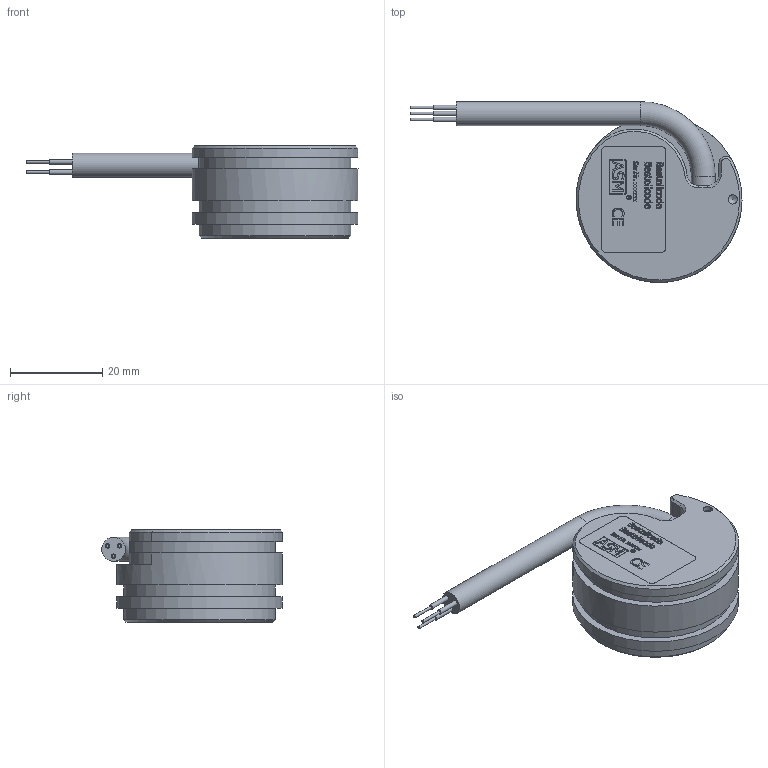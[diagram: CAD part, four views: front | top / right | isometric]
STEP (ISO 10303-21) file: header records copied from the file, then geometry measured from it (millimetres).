
FILE_DESCRIPTION((''),'2;1');
FILE_NAME('K:\Daten\Ptam2-Kab.stp','2013-07-04T12:05:55',('kamp'),(''),'Autodesk Inventor 2008','Autodesk Inventor 2008','');
FILE_SCHEMA(('AUTOMOTIVE_DESIGN { 1 0 10303 214 1 1 1 1 }'));
Length unit declared in the file: millimetre
Products named in the file (1): Bauteil14
Bounding box: 72.03 x 39.22 x 20.01 mm (x, y, z)
Volume: 19369.7 mm3; surface area: 5895.4 mm2
Topology: 1 solids, 1 shells, 712 faces, 1904 edges, 1266 vertices
Faces by surface type: plane 383, bspline 290, cylinder 32, cone 6, torus 1
Full cylindrical faces by diameter (mm): 0.6 x3, 0.923 x1, 1 x3, 1.024 x1, 5.2 x2, 33 x2, 36 x2
Entity records: 24228 total; most frequent: CARTESIAN_POINT 7704, ORIENTED_EDGE 3764, DIRECTION 2228, EDGE_CURVE 1882, VERTEX_POINT 1262, VECTOR 1226, LINE 1226, EDGE_LOOP 802
